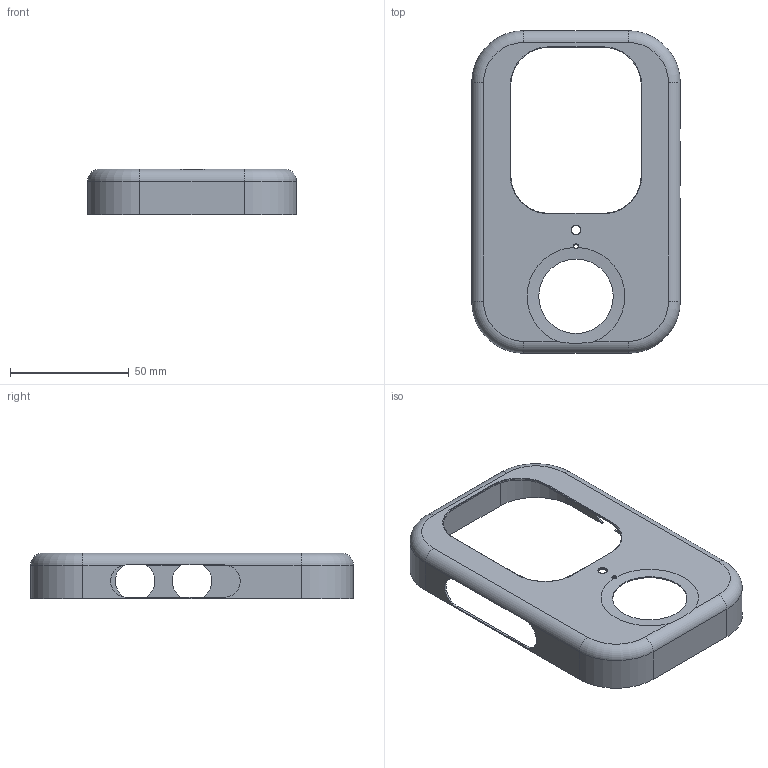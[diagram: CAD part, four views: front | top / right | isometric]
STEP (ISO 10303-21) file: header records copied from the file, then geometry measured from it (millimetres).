
FILE_DESCRIPTION(('Open CASCADE Model'),'2;1');
FILE_NAME('Open CASCADE Shape Model','2026-09-06T11:32:52',('Author'),( 'Open CASCADE'),'Open CASCADE STEP processor 7.7','Open CASCADE 7.7' ,'Unknown');
FILE_SCHEMA(('AUTOMOTIVE_DESIGN { 1 0 10303 214 1 1 1 1 }'));
Length unit declared in the file: millimetre
Products named in the file (1): Open CASCADE STEP translator 7.7 5
Bounding box: 88 x 136 x 19.25 mm (x, y, z)
Volume: 9964.3 mm3; surface area: 25879.2 mm2
Topology: 1 solids, 1 shells, 92 faces, 255 edges, 161 vertices
Faces by surface type: cylinder 43, plane 34, torus 14, sphere 1
Full cylindrical faces by diameter (mm): 1.8 x1, 3.7 x1, 31.4 x1
Entity records: 7025 total; most frequent: CARTESIAN_POINT 1939, DIRECTION 970, LINE 519, VECTOR 519, ORIENTED_EDGE 510, PCURVE 510, DEFINITIONAL_REPRESENTATION 510, EDGE_CURVE 255
